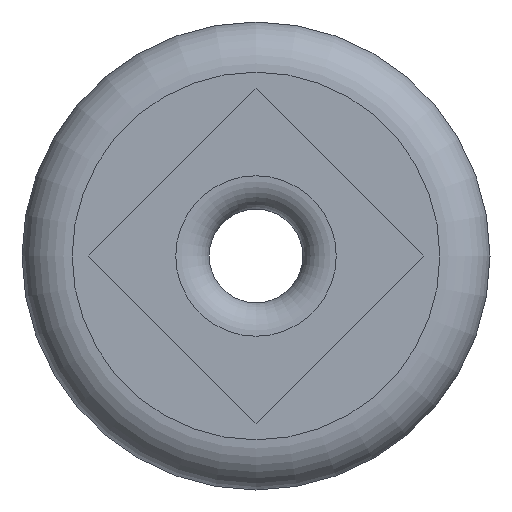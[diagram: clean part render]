
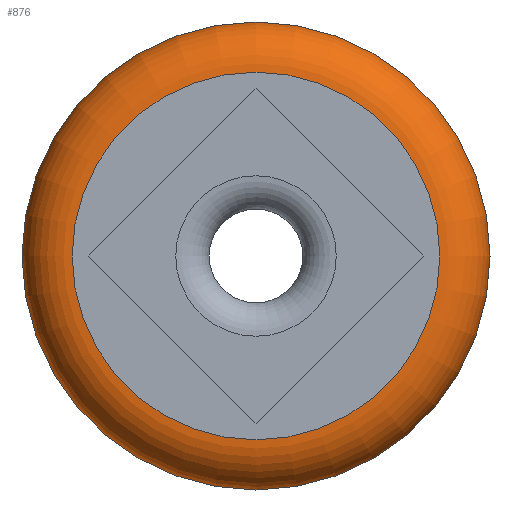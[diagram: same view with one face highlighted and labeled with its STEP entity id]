
A CAD part, front view. The second image highlights one B-rep face of the part: STEP entity #876.
In plain terms, the highlighted toroidal (fillet/blend) face has major radius 13.97 mm and minor radius 3.81 mm.
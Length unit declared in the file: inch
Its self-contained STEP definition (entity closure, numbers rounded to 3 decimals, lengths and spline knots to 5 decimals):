
#33=TOROIDAL_SURFACE('',#961,0.55,0.15);
#48=CIRCLE('',#941,0.7);
#49=CIRCLE('',#942,0.7);
#60=CIRCLE('',#962,0.15);
#61=CIRCLE('',#963,0.55);
#62=CIRCLE('',#964,0.55);
#106=FACE_OUTER_BOUND('',#156,.T.);
#156=EDGE_LOOP('',(#764,#765,#766,#767,#768,#769));
#380=VERTEX_POINT('',#2715);
#381=VERTEX_POINT('',#2717);
#390=VERTEX_POINT('',#4446);
#391=VERTEX_POINT('',#4448);
#497=EDGE_CURVE('',#381,#380,#48,.T.);
#498=EDGE_CURVE('',#380,#381,#49,.T.);
#518=EDGE_CURVE('',#381,#390,#60,.T.);
#519=EDGE_CURVE('',#390,#391,#61,.T.);
#520=EDGE_CURVE('',#391,#390,#62,.T.);
#764=ORIENTED_EDGE('',*,*,#498,.T.);
#765=ORIENTED_EDGE('',*,*,#518,.T.);
#766=ORIENTED_EDGE('',*,*,#519,.T.);
#767=ORIENTED_EDGE('',*,*,#520,.T.);
#768=ORIENTED_EDGE('',*,*,#518,.F.);
#769=ORIENTED_EDGE('',*,*,#497,.T.);
#876=ADVANCED_FACE('',(#106),#33,.T.);
#941=AXIS2_PLACEMENT_3D('',#2718,#1093,#1094);
#942=AXIS2_PLACEMENT_3D('',#2719,#1095,#1096);
#961=AXIS2_PLACEMENT_3D('',#4445,#1134,#1135);
#962=AXIS2_PLACEMENT_3D('',#4447,#1136,#1137);
#963=AXIS2_PLACEMENT_3D('',#4449,#1138,#1139);
#964=AXIS2_PLACEMENT_3D('',#4450,#1140,#1141);
#1093=DIRECTION('center_axis',(0.,-1.,0.));
#1094=DIRECTION('ref_axis',(1.,0.,0.));
#1095=DIRECTION('center_axis',(0.,-1.,0.));
#1096=DIRECTION('ref_axis',(1.,0.,0.));
#1134=DIRECTION('center_axis',(0.,1.,0.));
#1135=DIRECTION('ref_axis',(0.,0.,1.));
#1136=DIRECTION('center_axis',(-1.,0.,0.));
#1137=DIRECTION('ref_axis',(0.,0.,-1.));
#1138=DIRECTION('center_axis',(0.,1.,0.));
#1139=DIRECTION('ref_axis',(1.,0.,0.));
#1140=DIRECTION('center_axis',(0.,1.,0.));
#1141=DIRECTION('ref_axis',(1.,0.,0.));
#2715=CARTESIAN_POINT('',(-0.7,0.15,0.));
#2717=CARTESIAN_POINT('',(0.,0.15,-0.7));
#2718=CARTESIAN_POINT('Origin',(0.,0.15,0.));
#2719=CARTESIAN_POINT('Origin',(0.,0.15,0.));
#4445=CARTESIAN_POINT('Origin',(0.,0.15,0.));
#4446=CARTESIAN_POINT('',(0.,0.,-0.55));
#4447=CARTESIAN_POINT('Origin',(0.,0.15,-0.55));
#4448=CARTESIAN_POINT('',(-0.55,0.,0.));
#4449=CARTESIAN_POINT('Origin',(0.,0.,0.));
#4450=CARTESIAN_POINT('Origin',(0.,0.,0.));
